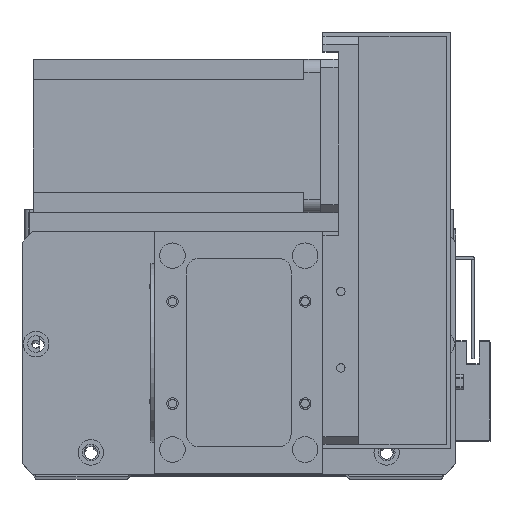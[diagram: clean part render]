
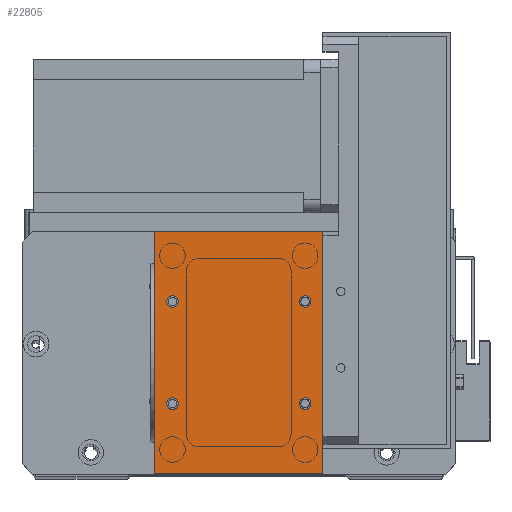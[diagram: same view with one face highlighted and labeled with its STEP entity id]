
A CAD part, top view. The second image highlights one B-rep face of the part: STEP entity #22805.
In plain terms, the highlighted planar face has unit normal (0, 0, 1).
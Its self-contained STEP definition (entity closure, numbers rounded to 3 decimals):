
#579 = EDGE_CURVE ( 'NONE', #25972, #14723, #17608, .T. ) ;
#637 = AXIS2_PLACEMENT_3D ( 'NONE', #1158, #13362, #30127 ) ;
#811 = VERTEX_POINT ( 'NONE', #23217 ) ;
#1158 = CARTESIAN_POINT ( 'NONE',  ( 0., 0., 2. ) ) ;
#1868 = EDGE_CURVE ( 'NONE', #21204, #811, #28401, .T. ) ;
#2180 = DIRECTION ( 'NONE',  ( 1., 0., 0. ) ) ;
#2218 = ORIENTED_EDGE ( 'NONE', *, *, #17753, .F. ) ;
#2397 = ORIENTED_EDGE ( 'NONE', *, *, #24801, .F. ) ;
#2746 = ORIENTED_EDGE ( 'NONE', *, *, #20799, .T. ) ;
#2749 = DIRECTION ( 'NONE',  ( 0., 0., 1. ) ) ;
#2782 = EDGE_CURVE ( 'NONE', #26494, #14147, #30600, .T. ) ;
#2787 = DIRECTION ( 'NONE',  ( 1., 0., 0. ) ) ;
#2858 = CARTESIAN_POINT ( 'NONE',  ( 7., 27.5, 2. ) ) ;
#4059 = EDGE_CURVE ( 'NONE', #14723, #25972, #23042, .T. ) ;
#4393 = VERTEX_POINT ( 'NONE', #22044 ) ;
#4553 = VERTEX_POINT ( 'NONE', #15127 ) ;
#5012 = DIRECTION ( 'NONE',  ( 0., 0., 1. ) ) ;
#5094 = DIRECTION ( 'NONE',  ( 1., 0., 0. ) ) ;
#5131 = DIRECTION ( 'NONE',  ( 0., 0., 1. ) ) ;
#5166 = CARTESIAN_POINT ( 'NONE',  ( 7., 67.5, 2. ) ) ;
#5711 = VECTOR ( 'NONE', #25862, 1000. ) ;
#5727 = CARTESIAN_POINT ( 'NONE',  ( 59., 67.5, 2. ) ) ;
#6517 = ORIENTED_EDGE ( 'NONE', *, *, #16835, .T. ) ;
#8150 = DIRECTION ( 'NONE',  ( 1., 0., 0. ) ) ;
#8793 = CARTESIAN_POINT ( 'NONE',  ( 4.75, 27.5, 2. ) ) ;
#8846 = AXIS2_PLACEMENT_3D ( 'NONE', #5727, #22583, #8150 ) ;
#9014 = VERTEX_POINT ( 'NONE', #20629 ) ;
#9611 = DIRECTION ( 'NONE',  ( -1., 0., 0. ) ) ;
#9785 = AXIS2_PLACEMENT_3D ( 'NONE', #12744, #12781, #12844 ) ;
#9798 = VECTOR ( 'NONE', #9611, 1000. ) ;
#10216 = VECTOR ( 'NONE', #23946, 1000. ) ;
#10459 = ORIENTED_EDGE ( 'NONE', *, *, #579, .F. ) ;
#10485 = CIRCLE ( 'NONE', #8846, 2.25 ) ;
#10903 = PLANE ( 'NONE',  #637 ) ;
#10991 = CIRCLE ( 'NONE', #13311, 2.25 ) ;
#11327 = LINE ( 'NONE', #26418, #9798 ) ;
#11606 = EDGE_LOOP ( 'NONE', ( #24756, #2397 ) ) ;
#11631 = ORIENTED_EDGE ( 'NONE', *, *, #4059, .F. ) ;
#11700 = FACE_OUTER_BOUND ( 'NONE', #12438, .T. ) ;
#12178 = CARTESIAN_POINT ( 'NONE',  ( 9.25, 27.5, 2. ) ) ;
#12438 = EDGE_LOOP ( 'NONE', ( #17882, #30931, #2746, #6517 ) ) ;
#12502 = CARTESIAN_POINT ( 'NONE',  ( 56.75, 27.5, 2. ) ) ;
#12593 = CARTESIAN_POINT ( 'NONE',  ( 66., 0., 2. ) ) ;
#12738 = EDGE_LOOP ( 'NONE', ( #14567, #19244 ) ) ;
#12744 = CARTESIAN_POINT ( 'NONE',  ( 7., 27.5, 2. ) ) ;
#12781 = DIRECTION ( 'NONE',  ( 0., 0., 1. ) ) ;
#12798 = CIRCLE ( 'NONE', #26496, 2.25 ) ;
#12844 = DIRECTION ( 'NONE',  ( 1., 0., 0. ) ) ;
#13218 = FACE_BOUND ( 'NONE', #28159, .T. ) ;
#13311 = AXIS2_PLACEMENT_3D ( 'NONE', #31049, #16684, #2180 ) ;
#13362 = DIRECTION ( 'NONE',  ( 0., 0., -1. ) ) ;
#14147 = VERTEX_POINT ( 'NONE', #12502 ) ;
#14193 = DIRECTION ( 'NONE',  ( 0., 0., 1. ) ) ;
#14294 = AXIS2_PLACEMENT_3D ( 'NONE', #19459, #5012, #21878 ) ;
#14567 = ORIENTED_EDGE ( 'NONE', *, *, #2782, .F. ) ;
#14723 = VERTEX_POINT ( 'NONE', #12178 ) ;
#15127 = CARTESIAN_POINT ( 'NONE',  ( 0., 95., 2. ) ) ;
#15735 = CARTESIAN_POINT ( 'NONE',  ( 66., 0., 2. ) ) ;
#16043 = VECTOR ( 'NONE', #29389, 1000. ) ;
#16654 = LINE ( 'NONE', #28637, #10216 ) ;
#16684 = DIRECTION ( 'NONE',  ( 0., 0., 1. ) ) ;
#16835 = EDGE_CURVE ( 'NONE', #26588, #4553, #11327, .T. ) ;
#17608 = CIRCLE ( 'NONE', #9785, 2.25 ) ;
#17753 = EDGE_CURVE ( 'NONE', #26905, #9014, #10485, .T. ) ;
#17816 = LINE ( 'NONE', #30688, #5711 ) ;
#17882 = ORIENTED_EDGE ( 'NONE', *, *, #22335, .T. ) ;
#18010 = EDGE_LOOP ( 'NONE', ( #2218, #26908 ) ) ;
#18122 = AXIS2_PLACEMENT_3D ( 'NONE', #5166, #5131, #5094 ) ;
#18131 = FACE_BOUND ( 'NONE', #12738, .T. ) ;
#19120 = AXIS2_PLACEMENT_3D ( 'NONE', #2858, #2749, #2787 ) ;
#19244 = ORIENTED_EDGE ( 'NONE', *, *, #23001, .F. ) ;
#19459 = CARTESIAN_POINT ( 'NONE',  ( 7., 67.5, 2. ) ) ;
#19581 = CARTESIAN_POINT ( 'NONE',  ( 61.25, 67.5, 2. ) ) ;
#20629 = CARTESIAN_POINT ( 'NONE',  ( 56.75, 67.5, 2. ) ) ;
#20799 = EDGE_CURVE ( 'NONE', #29420, #26588, #22403, .T. ) ;
#21204 = VERTEX_POINT ( 'NONE', #21311 ) ;
#21311 = CARTESIAN_POINT ( 'NONE',  ( 9.25, 67.5, 2. ) ) ;
#21878 = DIRECTION ( 'NONE',  ( 1., 0., 0. ) ) ;
#22044 = CARTESIAN_POINT ( 'NONE',  ( 0., 0., 2. ) ) ;
#22335 = EDGE_CURVE ( 'NONE', #4553, #4393, #17816, .T. ) ;
#22403 = LINE ( 'NONE', #12593, #16043 ) ;
#22583 = DIRECTION ( 'NONE',  ( 0., 0., 1. ) ) ;
#22676 = CARTESIAN_POINT ( 'NONE',  ( 61.25, 27.5, 2. ) ) ;
#22805 = ADVANCED_FACE ( 'NONE', ( #30857, #24501, #18131, #13218, #11700 ), #10903, .F. ) ;
#23001 = EDGE_CURVE ( 'NONE', #14147, #26494, #12798, .T. ) ;
#23042 = CIRCLE ( 'NONE', #19120, 2.25 ) ;
#23103 = CARTESIAN_POINT ( 'NONE',  ( 66., 95., 2. ) ) ;
#23217 = CARTESIAN_POINT ( 'NONE',  ( 4.75, 67.5, 2. ) ) ;
#23946 = DIRECTION ( 'NONE',  ( 1., 0., 0. ) ) ;
#24365 = AXIS2_PLACEMENT_3D ( 'NONE', #29023, #28916, #28414 ) ;
#24501 = FACE_BOUND ( 'NONE', #18010, .T. ) ;
#24756 = ORIENTED_EDGE ( 'NONE', *, *, #1868, .F. ) ;
#24801 = EDGE_CURVE ( 'NONE', #811, #21204, #30411, .T. ) ;
#25862 = DIRECTION ( 'NONE',  ( 0., -1., 0. ) ) ;
#25972 = VERTEX_POINT ( 'NONE', #8793 ) ;
#26418 = CARTESIAN_POINT ( 'NONE',  ( 0., 95., 2. ) ) ;
#26494 = VERTEX_POINT ( 'NONE', #22676 ) ;
#26496 = AXIS2_PLACEMENT_3D ( 'NONE', #28546, #14193, #30955 ) ;
#26588 = VERTEX_POINT ( 'NONE', #23103 ) ;
#26905 = VERTEX_POINT ( 'NONE', #19581 ) ;
#26908 = ORIENTED_EDGE ( 'NONE', *, *, #30840, .F. ) ;
#28159 = EDGE_LOOP ( 'NONE', ( #11631, #10459 ) ) ;
#28401 = CIRCLE ( 'NONE', #18122, 2.25 ) ;
#28414 = DIRECTION ( 'NONE',  ( 1., 0., 0. ) ) ;
#28546 = CARTESIAN_POINT ( 'NONE',  ( 59., 27.5, 2. ) ) ;
#28637 = CARTESIAN_POINT ( 'NONE',  ( 0., 0., 2. ) ) ;
#28916 = DIRECTION ( 'NONE',  ( 0., 0., 1. ) ) ;
#29023 = CARTESIAN_POINT ( 'NONE',  ( 59., 27.5, 2. ) ) ;
#29389 = DIRECTION ( 'NONE',  ( 0., 1., 0. ) ) ;
#29420 = VERTEX_POINT ( 'NONE', #15735 ) ;
#30127 = DIRECTION ( 'NONE',  ( -1., 0., 0. ) ) ;
#30411 = CIRCLE ( 'NONE', #14294, 2.25 ) ;
#30600 = CIRCLE ( 'NONE', #24365, 2.25 ) ;
#30688 = CARTESIAN_POINT ( 'NONE',  ( 0., 0., 2. ) ) ;
#30840 = EDGE_CURVE ( 'NONE', #9014, #26905, #10991, .T. ) ;
#30857 = FACE_BOUND ( 'NONE', #11606, .T. ) ;
#30864 = EDGE_CURVE ( 'NONE', #4393, #29420, #16654, .T. ) ;
#30931 = ORIENTED_EDGE ( 'NONE', *, *, #30864, .T. ) ;
#30955 = DIRECTION ( 'NONE',  ( 1., 0., 0. ) ) ;
#31049 = CARTESIAN_POINT ( 'NONE',  ( 59., 67.5, 2. ) ) ;
